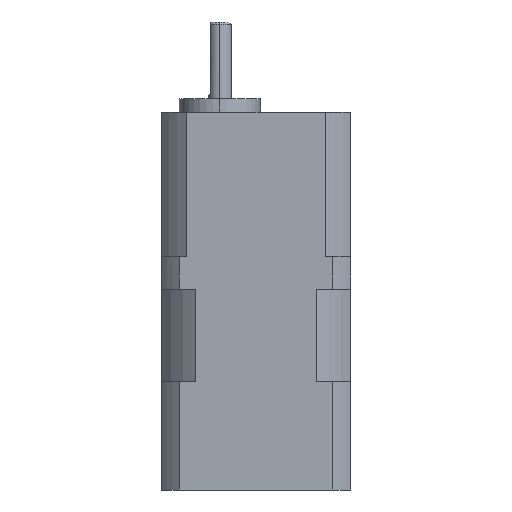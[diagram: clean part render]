
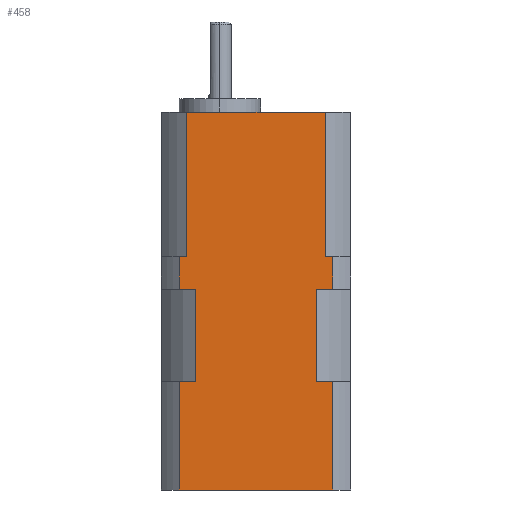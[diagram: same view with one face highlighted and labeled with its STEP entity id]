
A CAD part, left-side view. The second image highlights one B-rep face of the part: STEP entity #458.
In plain terms, the highlighted planar face has unit normal (-1, 0, 0).
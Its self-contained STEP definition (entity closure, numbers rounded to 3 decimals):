
#5 = VERTEX_POINT ( 'NONE', #673 ) ;
#10 = DIRECTION ( 'NONE',  ( 0., 0., 1. ) ) ;
#23 = DIRECTION ( 'NONE',  ( 0., 1., 0. ) ) ;
#57 = CARTESIAN_POINT ( 'NONE',  ( -21., -24.971, -59.8 ) ) ;
#73 = ORIENTED_EDGE ( 'NONE', *, *, #1546, .T. ) ;
#78 = VERTEX_POINT ( 'NONE', #1516 ) ;
#169 = ORIENTED_EDGE ( 'NONE', *, *, #248, .T. ) ;
#170 = VECTOR ( 'NONE', #10, 1000. ) ;
#177 = VECTOR ( 'NONE', #215, 1000. ) ;
#186 = VERTEX_POINT ( 'NONE', #939 ) ;
#191 = DIRECTION ( 'NONE',  ( 1., 0., 0. ) ) ;
#192 = EDGE_CURVE ( 'NONE', #1040, #1582, #1073, .T. ) ;
#201 = CARTESIAN_POINT ( 'NONE',  ( -21., 7.33, 0. ) ) ;
#215 = DIRECTION ( 'NONE',  ( 0., 1., 0. ) ) ;
#248 = EDGE_CURVE ( 'NONE', #831, #437, #1549, .T. ) ;
#306 = CARTESIAN_POINT ( 'NONE',  ( -21., 0., 0. ) ) ;
#312 = VERTEX_POINT ( 'NONE', #420 ) ;
#319 = CARTESIAN_POINT ( 'NONE',  ( -21., -24.971, -83.8 ) ) ;
#336 = VECTOR ( 'NONE', #562, 1000. ) ;
#353 = DIRECTION ( 'NONE',  ( 0., 1., 0. ) ) ;
#360 = ORIENTED_EDGE ( 'NONE', *, *, #566, .F. ) ;
#361 = CARTESIAN_POINT ( 'NONE',  ( -21., 8.971, -32. ) ) ;
#393 = LINE ( 'NONE', #319, #975 ) ;
#398 = LINE ( 'NONE', #852, #1089 ) ;
#420 = CARTESIAN_POINT ( 'NONE',  ( -21., -24.971, -32. ) ) ;
#437 = VERTEX_POINT ( 'NONE', #853 ) ;
#458 = ADVANCED_FACE ( 'NONE', ( #1056 ), #990, .F. ) ;
#468 = DIRECTION ( 'NONE',  ( 0., 1., 0. ) ) ;
#490 = ORIENTED_EDGE ( 'NONE', *, *, #722, .T. ) ;
#492 = EDGE_CURVE ( 'NONE', #437, #5, #824, .T. ) ;
#505 = LINE ( 'NONE', #864, #170 ) ;
#513 = LINE ( 'NONE', #1346, #1734 ) ;
#516 = ORIENTED_EDGE ( 'NONE', *, *, #1312, .F. ) ;
#541 = EDGE_LOOP ( 'NONE', ( #1785, #924, #73, #1656, #868, #516, #490, #360, #947, #992, #169, #1557, #1491, #1459, #1584, #1667 ) ) ;
#550 = LINE ( 'NONE', #1845, #867 ) ;
#562 = DIRECTION ( 'NONE',  ( 0., 1., 0. ) ) ;
#566 = EDGE_CURVE ( 'NONE', #186, #1010, #505, .T. ) ;
#575 = LINE ( 'NONE', #912, #1702 ) ;
#595 = VECTOR ( 'NONE', #973, 1000. ) ;
#642 = CARTESIAN_POINT ( 'NONE',  ( -21., 0., -39.3 ) ) ;
#646 = DIRECTION ( 'NONE',  ( 0., 1., 0. ) ) ;
#647 = CARTESIAN_POINT ( 'NONE',  ( -21., 8.971, -39.3 ) ) ;
#651 = CARTESIAN_POINT ( 'NONE',  ( -21., -23.33, -32. ) ) ;
#662 = DIRECTION ( 'NONE',  ( 0., 0., 1. ) ) ;
#673 = CARTESIAN_POINT ( 'NONE',  ( -21., -21.379, -39.3 ) ) ;
#704 = DIRECTION ( 'NONE',  ( 0., 1., 0. ) ) ;
#710 = EDGE_CURVE ( 'NONE', #1666, #976, #1681, .T. ) ;
#722 = EDGE_CURVE ( 'NONE', #1114, #1010, #979, .T. ) ;
#761 = VECTOR ( 'NONE', #468, 1000. ) ;
#786 = VECTOR ( 'NONE', #1672, 1000. ) ;
#807 = VERTEX_POINT ( 'NONE', #361 ) ;
#812 = EDGE_CURVE ( 'NONE', #917, #976, #575, .T. ) ;
#817 = CARTESIAN_POINT ( 'NONE',  ( -21., -23.33, 0. ) ) ;
#824 = LINE ( 'NONE', #1257, #940 ) ;
#831 = VERTEX_POINT ( 'NONE', #57 ) ;
#852 = CARTESIAN_POINT ( 'NONE',  ( -21., -24.971, -39.3 ) ) ;
#853 = CARTESIAN_POINT ( 'NONE',  ( -21., -21.379, -59.8 ) ) ;
#862 = CARTESIAN_POINT ( 'NONE',  ( -21., 0., -59.8 ) ) ;
#864 = CARTESIAN_POINT ( 'NONE',  ( -21., 8.971, -70.3 ) ) ;
#865 = CARTESIAN_POINT ( 'NONE',  ( -21., 5.379, -39.3 ) ) ;
#867 = VECTOR ( 'NONE', #704, 1000. ) ;
#868 = ORIENTED_EDGE ( 'NONE', *, *, #192, .F. ) ;
#872 = CARTESIAN_POINT ( 'NONE',  ( -21., -23.33, -32. ) ) ;
#912 = CARTESIAN_POINT ( 'NONE',  ( -21., 7.33, -32. ) ) ;
#917 = VERTEX_POINT ( 'NONE', #1203 ) ;
#924 = ORIENTED_EDGE ( 'NONE', *, *, #812, .F. ) ;
#939 = CARTESIAN_POINT ( 'NONE',  ( -21., 8.971, -83.8 ) ) ;
#940 = VECTOR ( 'NONE', #1105, 1000. ) ;
#947 = ORIENTED_EDGE ( 'NONE', *, *, #1080, .F. ) ;
#973 = DIRECTION ( 'NONE',  ( 0., 0., 1. ) ) ;
#975 = VECTOR ( 'NONE', #1753, 1000. ) ;
#976 = VERTEX_POINT ( 'NONE', #201 ) ;
#979 = LINE ( 'NONE', #862, #761 ) ;
#980 = LINE ( 'NONE', #1535, #595 ) ;
#990 = PLANE ( 'NONE',  #1231 ) ;
#992 = ORIENTED_EDGE ( 'NONE', *, *, #1238, .T. ) ;
#1010 = VERTEX_POINT ( 'NONE', #1151 ) ;
#1019 = VERTEX_POINT ( 'NONE', #872 ) ;
#1040 = VERTEX_POINT ( 'NONE', #865 ) ;
#1056 = FACE_OUTER_BOUND ( 'NONE', #541, .T. ) ;
#1071 = VECTOR ( 'NONE', #662, 1000. ) ;
#1072 = CARTESIAN_POINT ( 'NONE',  ( -21., 5.379, -59.8 ) ) ;
#1073 = LINE ( 'NONE', #1490, #1090 ) ;
#1080 = EDGE_CURVE ( 'NONE', #1119, #186, #393, .T. ) ;
#1089 = VECTOR ( 'NONE', #1141, 1000. ) ;
#1090 = VECTOR ( 'NONE', #646, 1000. ) ;
#1099 = CARTESIAN_POINT ( 'NONE',  ( -21., 0., -59.8 ) ) ;
#1105 = DIRECTION ( 'NONE',  ( 0., 0., 1. ) ) ;
#1114 = VERTEX_POINT ( 'NONE', #1576 ) ;
#1119 = VERTEX_POINT ( 'NONE', #1592 ) ;
#1141 = DIRECTION ( 'NONE',  ( 0., 0., 1. ) ) ;
#1151 = CARTESIAN_POINT ( 'NONE',  ( -21., 8.971, -59.8 ) ) ;
#1161 = DIRECTION ( 'NONE',  ( 0., 0., -1. ) ) ;
#1176 = EDGE_CURVE ( 'NONE', #312, #1019, #550, .T. ) ;
#1179 = LINE ( 'NONE', #1072, #786 ) ;
#1203 = CARTESIAN_POINT ( 'NONE',  ( -21., 7.33, -32. ) ) ;
#1231 = AXIS2_PLACEMENT_3D ( 'NONE', #1272, #191, #1161 ) ;
#1238 = EDGE_CURVE ( 'NONE', #1119, #831, #1703, .T. ) ;
#1257 = CARTESIAN_POINT ( 'NONE',  ( -21., -21.379, -59.8 ) ) ;
#1272 = CARTESIAN_POINT ( 'NONE',  ( -21., 0., -32. ) ) ;
#1312 = EDGE_CURVE ( 'NONE', #1114, #1040, #1179, .T. ) ;
#1327 = DIRECTION ( 'NONE',  ( 0., 0., 1. ) ) ;
#1346 = CARTESIAN_POINT ( 'NONE',  ( -21., 0., -32. ) ) ;
#1347 = EDGE_CURVE ( 'NONE', #1019, #1666, #1688, .T. ) ;
#1374 = VECTOR ( 'NONE', #1683, 1000. ) ;
#1459 = ORIENTED_EDGE ( 'NONE', *, *, #1782, .T. ) ;
#1490 = CARTESIAN_POINT ( 'NONE',  ( -21., 0., -39.3 ) ) ;
#1491 = ORIENTED_EDGE ( 'NONE', *, *, #1495, .F. ) ;
#1495 = EDGE_CURVE ( 'NONE', #78, #5, #1664, .T. ) ;
#1516 = CARTESIAN_POINT ( 'NONE',  ( -21., -24.971, -39.3 ) ) ;
#1523 = VECTOR ( 'NONE', #23, 1000. ) ;
#1535 = CARTESIAN_POINT ( 'NONE',  ( -21., 8.971, -39.3 ) ) ;
#1540 = CARTESIAN_POINT ( 'NONE',  ( -21., -24.971, -70.3 ) ) ;
#1546 = EDGE_CURVE ( 'NONE', #917, #807, #513, .T. ) ;
#1549 = LINE ( 'NONE', #1099, #336 ) ;
#1557 = ORIENTED_EDGE ( 'NONE', *, *, #492, .T. ) ;
#1576 = CARTESIAN_POINT ( 'NONE',  ( -21., 5.379, -59.8 ) ) ;
#1582 = VERTEX_POINT ( 'NONE', #647 ) ;
#1584 = ORIENTED_EDGE ( 'NONE', *, *, #1176, .T. ) ;
#1592 = CARTESIAN_POINT ( 'NONE',  ( -21., -24.971, -83.8 ) ) ;
#1656 = ORIENTED_EDGE ( 'NONE', *, *, #1670, .F. ) ;
#1664 = LINE ( 'NONE', #642, #177 ) ;
#1666 = VERTEX_POINT ( 'NONE', #817 ) ;
#1667 = ORIENTED_EDGE ( 'NONE', *, *, #1347, .T. ) ;
#1670 = EDGE_CURVE ( 'NONE', #1582, #807, #980, .T. ) ;
#1672 = DIRECTION ( 'NONE',  ( 0., 0., 1. ) ) ;
#1681 = LINE ( 'NONE', #306, #1523 ) ;
#1683 = DIRECTION ( 'NONE',  ( 0., 0., 1. ) ) ;
#1688 = LINE ( 'NONE', #651, #1071 ) ;
#1702 = VECTOR ( 'NONE', #1327, 1000. ) ;
#1703 = LINE ( 'NONE', #1540, #1374 ) ;
#1734 = VECTOR ( 'NONE', #353, 1000. ) ;
#1753 = DIRECTION ( 'NONE',  ( 0., 1., 0. ) ) ;
#1782 = EDGE_CURVE ( 'NONE', #78, #312, #398, .T. ) ;
#1785 = ORIENTED_EDGE ( 'NONE', *, *, #710, .T. ) ;
#1845 = CARTESIAN_POINT ( 'NONE',  ( -21., 0., -32. ) ) ;
